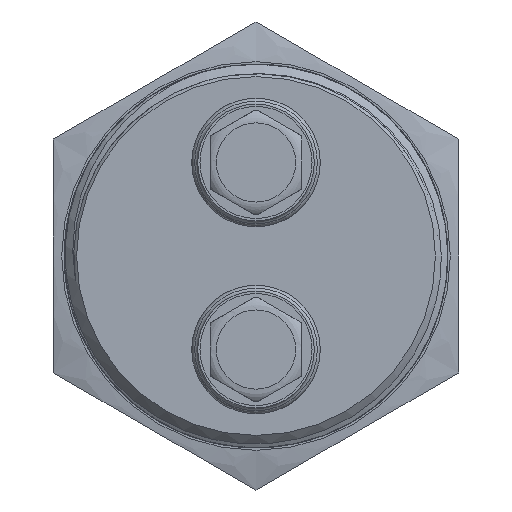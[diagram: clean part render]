
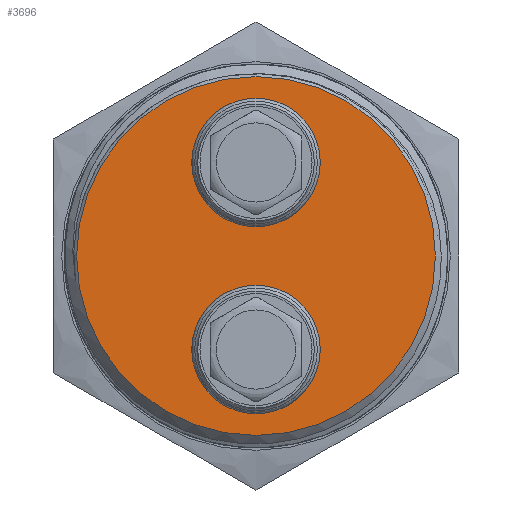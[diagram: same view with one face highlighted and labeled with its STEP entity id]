
A CAD part, front view. The second image highlights one B-rep face of the part: STEP entity #3696.
In plain terms, the highlighted planar face has unit normal (0, -1, 0).
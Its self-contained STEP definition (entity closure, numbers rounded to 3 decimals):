
#296 = PLANE ( 'NONE',  #9109 ) ;
#325 = DIRECTION ( 'NONE',  ( -1., 0., 0. ) ) ;
#604 = AXIS2_PLACEMENT_3D ( 'NONE', #8319, #7495, #1806 ) ;
#830 = FACE_BOUND ( 'NONE', #5018, .T. ) ;
#1520 = ORIENTED_EDGE ( 'NONE', *, *, #4702, .F. ) ;
#1550 = EDGE_LOOP ( 'NONE', ( #4685 ) ) ;
#1806 = DIRECTION ( 'NONE',  ( 0., 0., -1. ) ) ;
#1866 = CARTESIAN_POINT ( 'NONE',  ( -4.804, 48.9, -7.938 ) ) ;
#2060 = CIRCLE ( 'NONE', #7293, 5.456 ) ;
#2179 = EDGE_LOOP ( 'NONE', ( #7831 ) ) ;
#2183 = DIRECTION ( 'NONE',  ( 1., 0., 0. ) ) ;
#2702 = VERTEX_POINT ( 'NONE', #1866 ) ;
#2926 = EDGE_CURVE ( 'NONE', #3832, #3832, #7574, .T. ) ;
#2942 = CARTESIAN_POINT ( 'NONE',  ( -20.029, 48.9, -15.875 ) ) ;
#3420 = CARTESIAN_POINT ( 'NONE',  ( -20.029, 48.9, -5.456 ) ) ;
#3680 = DIRECTION ( 'NONE',  ( 0., 1., 0. ) ) ;
#3696 = ADVANCED_FACE ( 'NONE', ( #8498, #830, #5009 ), #296, .T. ) ;
#3739 = CARTESIAN_POINT ( 'NONE',  ( -20.029, 48.9, -7.938 ) ) ;
#3832 = VERTEX_POINT ( 'NONE', #3420 ) ;
#3943 = CARTESIAN_POINT ( 'NONE',  ( -20.029, 48.9, 7.287 ) ) ;
#4042 = CARTESIAN_POINT ( 'NONE',  ( -20.029, 48.9, -21.331 ) ) ;
#4649 = DIRECTION ( 'NONE',  ( 0., -1., 0. ) ) ;
#4685 = ORIENTED_EDGE ( 'NONE', *, *, #2926, .F. ) ;
#4702 = EDGE_CURVE ( 'NONE', #4848, #4848, #2060, .T. ) ;
#4848 = VERTEX_POINT ( 'NONE', #4042 ) ;
#5009 = FACE_OUTER_BOUND ( 'NONE', #2179, .T. ) ;
#5018 = EDGE_LOOP ( 'NONE', ( #1520 ) ) ;
#5269 = AXIS2_PLACEMENT_3D ( 'NONE', #3739, #3680, #2183 ) ;
#5298 = CIRCLE ( 'NONE', #5269, 15.225 ) ;
#6788 = EDGE_CURVE ( 'NONE', #2702, #2702, #5298, .T. ) ;
#7215 = DIRECTION ( 'NONE',  ( 0., -1., 0. ) ) ;
#7293 = AXIS2_PLACEMENT_3D ( 'NONE', #2942, #7215, #8604 ) ;
#7495 = DIRECTION ( 'NONE',  ( 0., -1., 0. ) ) ;
#7574 = CIRCLE ( 'NONE', #604, 5.456 ) ;
#7831 = ORIENTED_EDGE ( 'NONE', *, *, #6788, .F. ) ;
#8319 = CARTESIAN_POINT ( 'NONE',  ( -20.029, 48.9, 0. ) ) ;
#8498 = FACE_BOUND ( 'NONE', #1550, .T. ) ;
#8604 = DIRECTION ( 'NONE',  ( 0., 0., -1. ) ) ;
#9109 = AXIS2_PLACEMENT_3D ( 'NONE', #3943, #4649, #325 ) ;
